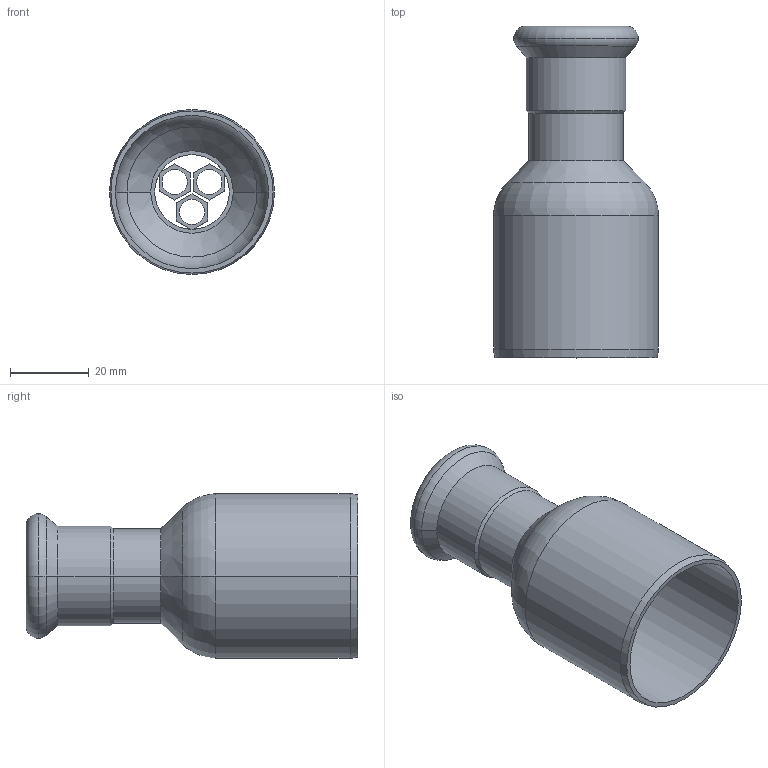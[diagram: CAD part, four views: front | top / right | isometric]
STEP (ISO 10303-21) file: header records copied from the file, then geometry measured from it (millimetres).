
FILE_DESCRIPTION(('OneSpaceDesigner STEP Export'),'2;1');
FILE_NAME('R2707 22x42.stp','2010-06-09T13:16:12',(''),(''),'OneSpace Designer STEP processor for AP214 (Solid Model)','OneSpace Modeling 15.00A 14-Mar-2007 (C) CoCreate Software GmbH','');
FILE_SCHEMA(('AUTOMOTIVE_DESIGN { 1 0 10303 214 1 1 1 1 }'));
Length unit declared in the file: millimetre
Products named in the file (2): R2707_22x42
Assembly tree (1 placements, depth 2):
  R2707_22x42
    R2707_22x42
Bounding box: 42 x 84.5 x 42 mm (x, y, z)
Volume: 15491.1 mm3; surface area: 19110.2 mm2
Topology: 1 solids, 1 shells, 75 faces, 178 edges, 111 vertices
Faces by surface type: plane 32, cylinder 25, cone 10, torus 8
Entity records: 1911 total; most frequent: ORIENTED_EDGE 356, CARTESIAN_POINT 303, DIRECTION 283, EDGE_CURVE 178, VERTEX_POINT 111, VECTOR 101, LINE 101, AXIS2_PLACEMENT_3D 91
